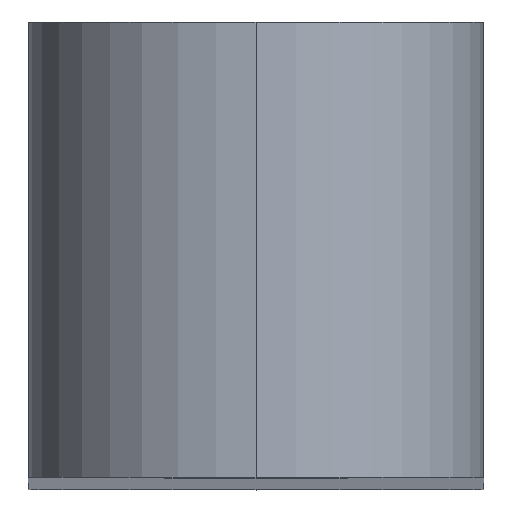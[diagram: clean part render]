
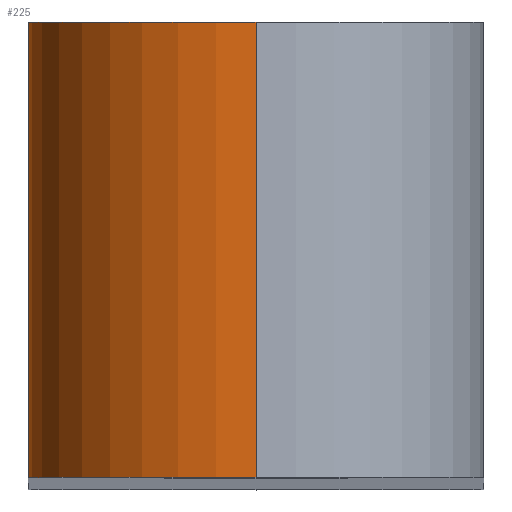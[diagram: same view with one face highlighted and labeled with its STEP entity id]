
A CAD part, top view. The second image highlights one B-rep face of the part: STEP entity #225.
In plain terms, the highlighted cylindrical face has radius 6 mm (diameter 12 mm), a partial arc.
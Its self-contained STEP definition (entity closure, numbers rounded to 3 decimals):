
#32 = PLANE('',#33);
#33 = AXIS2_PLACEMENT_3D('',#34,#35,#36);
#34 = CARTESIAN_POINT('',(202.6,32.,43.));
#35 = DIRECTION('',(-1.,0.,0.));
#36 = DIRECTION('',(0.,0.,1.));
#57 = VERTEX_POINT('',#58);
#58 = CARTESIAN_POINT('',(202.6,20.,223.7));
#84 = EDGE_CURVE('',#85,#57,#87,.T.);
#85 = VERTEX_POINT('',#86);
#86 = CARTESIAN_POINT('',(202.6,32.,223.7));
#87 = SURFACE_CURVE('',#88,(#92,#99),.PCURVE_S1.);
#88 = LINE('',#89,#90);
#89 = CARTESIAN_POINT('',(202.6,32.,223.7));
#90 = VECTOR('',#91,1.);
#91 = DIRECTION('',(0.,-1.,0.));
#92 = PCURVE('',#32,#93);
#93 = DEFINITIONAL_REPRESENTATION('',(#94),#98);
#94 = LINE('',#95,#96);
#95 = CARTESIAN_POINT('',(180.7,0.));
#96 = VECTOR('',#97,1.);
#97 = DIRECTION('',(0.,-1.));
#98 = ( GEOMETRIC_REPRESENTATION_CONTEXT(2) 
PARAMETRIC_REPRESENTATION_CONTEXT() REPRESENTATION_CONTEXT('2D SPACE',''
  ) );
#99 = PCURVE('',#100,#105);
#100 = CYLINDRICAL_SURFACE('',#101,6.);
#101 = AXIS2_PLACEMENT_3D('',#102,#103,#104);
#102 = CARTESIAN_POINT('',(208.6,20.,223.7));
#103 = DIRECTION('',(0.,1.,0.));
#104 = DIRECTION('',(0.,-0.,1.));
#105 = DEFINITIONAL_REPRESENTATION('',(#106),#110);
#106 = LINE('',#107,#108);
#107 = CARTESIAN_POINT('',(4.712,12.));
#108 = VECTOR('',#109,1.);
#109 = DIRECTION('',(0.,-1.));
#110 = ( GEOMETRIC_REPRESENTATION_CONTEXT(2) 
PARAMETRIC_REPRESENTATION_CONTEXT() REPRESENTATION_CONTEXT('2D SPACE',''
  ) );
#225 = ADVANCED_FACE('',(#226),#100,.T.);
#226 = FACE_BOUND('',#227,.T.);
#227 = EDGE_LOOP('',(#228,#258,#285,#286));
#228 = ORIENTED_EDGE('',*,*,#229,.T.);
#229 = EDGE_CURVE('',#230,#232,#234,.T.);
#230 = VERTEX_POINT('',#231);
#231 = CARTESIAN_POINT('',(208.6,20.,229.7));
#232 = VERTEX_POINT('',#233);
#233 = CARTESIAN_POINT('',(208.6,32.,229.7));
#234 = SURFACE_CURVE('',#235,(#239,#246),.PCURVE_S1.);
#235 = LINE('',#236,#237);
#236 = CARTESIAN_POINT('',(208.6,20.,229.7));
#237 = VECTOR('',#238,1.);
#238 = DIRECTION('',(0.,1.,0.));
#239 = PCURVE('',#100,#240);
#240 = DEFINITIONAL_REPRESENTATION('',(#241),#245);
#241 = LINE('',#242,#243);
#242 = CARTESIAN_POINT('',(6.283,-0.));
#243 = VECTOR('',#244,1.);
#244 = DIRECTION('',(0.,1.));
#245 = ( GEOMETRIC_REPRESENTATION_CONTEXT(2) 
PARAMETRIC_REPRESENTATION_CONTEXT() REPRESENTATION_CONTEXT('2D SPACE',''
  ) );
#246 = PCURVE('',#247,#252);
#247 = CYLINDRICAL_SURFACE('',#248,6.);
#248 = AXIS2_PLACEMENT_3D('',#249,#250,#251);
#249 = CARTESIAN_POINT('',(208.6,20.,223.7));
#250 = DIRECTION('',(0.,1.,0.));
#251 = DIRECTION('',(0.,-0.,1.));
#252 = DEFINITIONAL_REPRESENTATION('',(#253),#257);
#253 = LINE('',#254,#255);
#254 = CARTESIAN_POINT('',(0.,-0.));
#255 = VECTOR('',#256,1.);
#256 = DIRECTION('',(0.,1.));
#257 = ( GEOMETRIC_REPRESENTATION_CONTEXT(2) 
PARAMETRIC_REPRESENTATION_CONTEXT() REPRESENTATION_CONTEXT('2D SPACE',''
  ) );
#258 = ORIENTED_EDGE('',*,*,#259,.F.);
#259 = EDGE_CURVE('',#85,#232,#260,.T.);
#260 = SURFACE_CURVE('',#261,(#266,#273),.PCURVE_S1.);
#261 = CIRCLE('',#262,6.);
#262 = AXIS2_PLACEMENT_3D('',#263,#264,#265);
#263 = CARTESIAN_POINT('',(208.6,32.,223.7));
#264 = DIRECTION('',(0.,1.,0.));
#265 = DIRECTION('',(0.,-0.,1.));
#266 = PCURVE('',#100,#267);
#267 = DEFINITIONAL_REPRESENTATION('',(#268),#272);
#268 = LINE('',#269,#270);
#269 = CARTESIAN_POINT('',(0.,12.));
#270 = VECTOR('',#271,1.);
#271 = DIRECTION('',(1.,0.));
#272 = ( GEOMETRIC_REPRESENTATION_CONTEXT(2) 
PARAMETRIC_REPRESENTATION_CONTEXT() REPRESENTATION_CONTEXT('2D SPACE',''
  ) );
#273 = PCURVE('',#274,#279);
#274 = PLANE('',#275);
#275 = AXIS2_PLACEMENT_3D('',#276,#277,#278);
#276 = CARTESIAN_POINT('',(208.6,32.,223.7));
#277 = DIRECTION('',(0.,1.,0.));
#278 = DIRECTION('',(0.,-0.,1.));
#279 = DEFINITIONAL_REPRESENTATION('',(#280),#284);
#280 = CIRCLE('',#281,6.);
#281 = AXIS2_PLACEMENT_2D('',#282,#283);
#282 = CARTESIAN_POINT('',(0.,0.));
#283 = DIRECTION('',(1.,0.));
#284 = ( GEOMETRIC_REPRESENTATION_CONTEXT(2) 
PARAMETRIC_REPRESENTATION_CONTEXT() REPRESENTATION_CONTEXT('2D SPACE',''
  ) );
#285 = ORIENTED_EDGE('',*,*,#84,.T.);
#286 = ORIENTED_EDGE('',*,*,#287,.T.);
#287 = EDGE_CURVE('',#57,#230,#288,.T.);
#288 = SURFACE_CURVE('',#289,(#294,#301),.PCURVE_S1.);
#289 = CIRCLE('',#290,6.);
#290 = AXIS2_PLACEMENT_3D('',#291,#292,#293);
#291 = CARTESIAN_POINT('',(208.6,20.,223.7));
#292 = DIRECTION('',(0.,1.,0.));
#293 = DIRECTION('',(0.,-0.,1.));
#294 = PCURVE('',#100,#295);
#295 = DEFINITIONAL_REPRESENTATION('',(#296),#300);
#296 = LINE('',#297,#298);
#297 = CARTESIAN_POINT('',(0.,0.));
#298 = VECTOR('',#299,1.);
#299 = DIRECTION('',(1.,0.));
#300 = ( GEOMETRIC_REPRESENTATION_CONTEXT(2) 
PARAMETRIC_REPRESENTATION_CONTEXT() REPRESENTATION_CONTEXT('2D SPACE',''
  ) );
#301 = PCURVE('',#302,#307);
#302 = PLANE('',#303);
#303 = AXIS2_PLACEMENT_3D('',#304,#305,#306);
#304 = CARTESIAN_POINT('',(208.6,20.,223.7));
#305 = DIRECTION('',(0.,1.,0.));
#306 = DIRECTION('',(0.,-0.,1.));
#307 = DEFINITIONAL_REPRESENTATION('',(#308),#312);
#308 = CIRCLE('',#309,6.);
#309 = AXIS2_PLACEMENT_2D('',#310,#311);
#310 = CARTESIAN_POINT('',(0.,0.));
#311 = DIRECTION('',(1.,0.));
#312 = ( GEOMETRIC_REPRESENTATION_CONTEXT(2) 
PARAMETRIC_REPRESENTATION_CONTEXT() REPRESENTATION_CONTEXT('2D SPACE',''
  ) );
